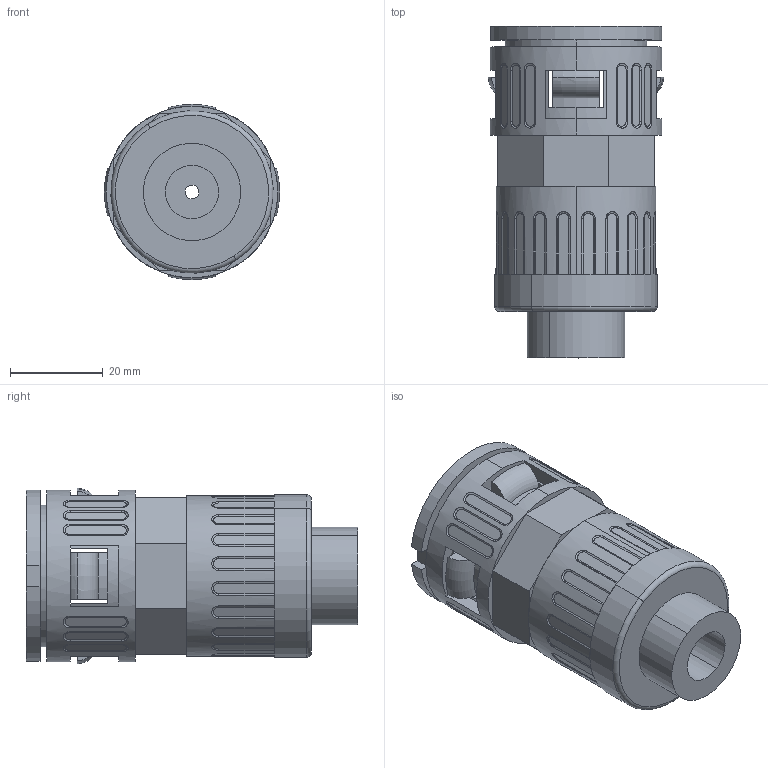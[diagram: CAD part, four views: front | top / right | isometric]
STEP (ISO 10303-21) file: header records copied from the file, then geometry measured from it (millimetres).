
FILE_DESCRIPTION (( 'STEP AP214' ), '1' );
FILE_NAME ('0000005653.STEP', '2017-07-13T09:22:46', ( 'HP' ), ( 'Hewlett-Packard Company' ), 'SwSTEP 2.0', 'SolidWorks 2014', '' );
FILE_SCHEMA (( 'AUTOMOTIVE_DESIGN' ));
Length unit declared in the file: millimetre
Products named in the file (4): 0000005653; 0000005648; 0000005650; 0000002555
Assembly tree (3 placements, depth 2):
  0000005653
    0000005648
    0000005650
    0000002555
Bounding box: 37.8 x 71.5 x 37.8 mm (x, y, z)
Volume: 29372.1 mm3; surface area: 21762.8 mm2
Topology: 3 solids, 3 shells, 304 faces, 832 edges, 548 vertices
Faces by surface type: plane 134, cylinder 106, bspline 44, torus 14, cone 6
Entity records: 14956 total; most frequent: CARTESIAN_POINT 7070, ORIENTED_EDGE 1664, DIRECTION 1590, EDGE_CURVE 832, AXIS2_PLACEMENT_3D 604, VERTEX_POINT 548, LINE 382, VECTOR 382
